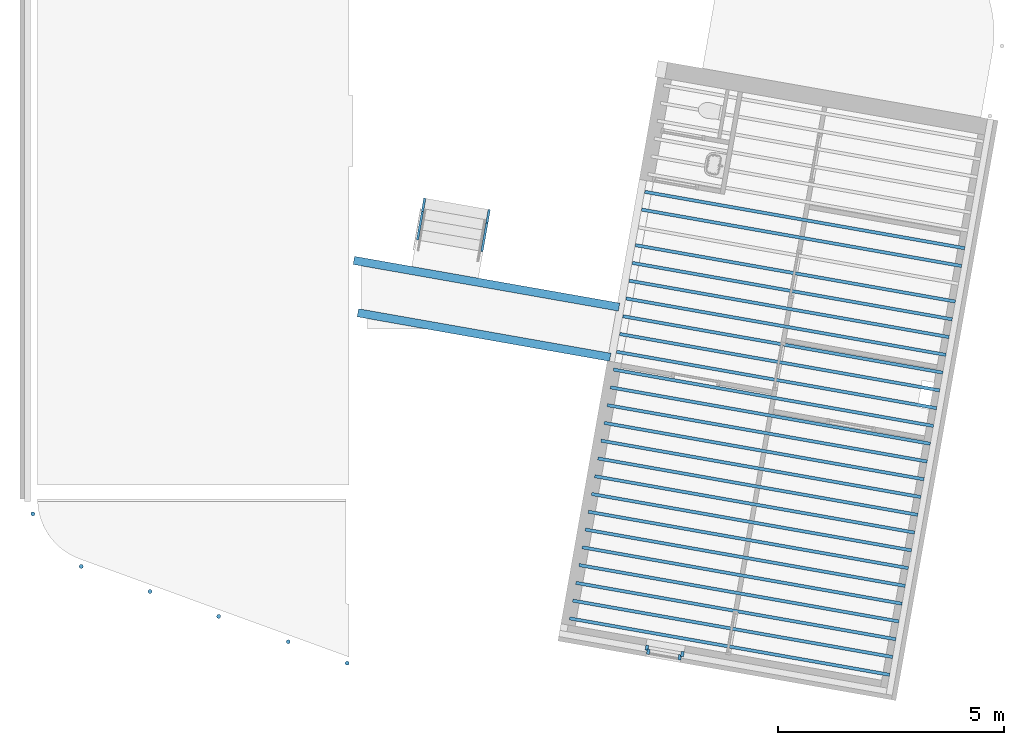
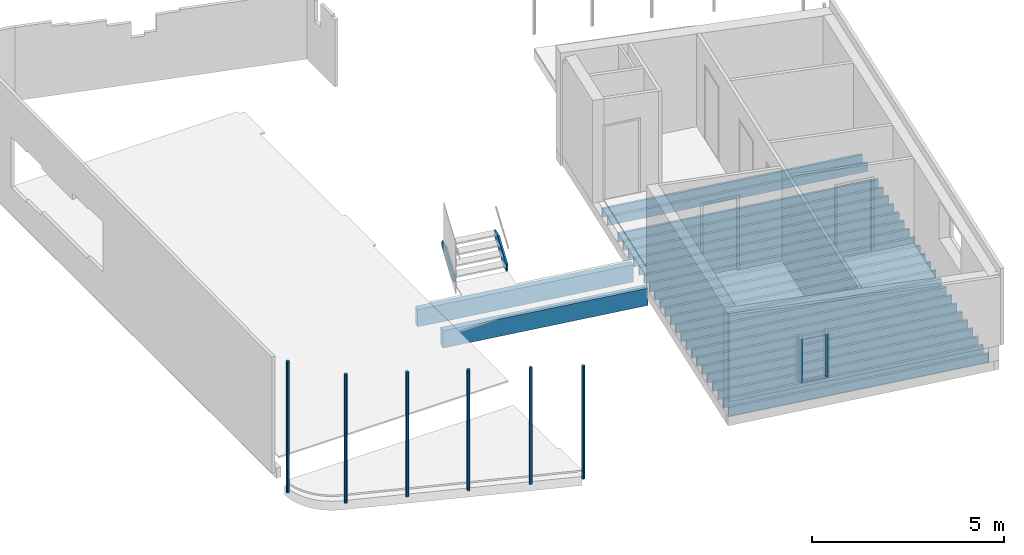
# One storey, part 1 of 7: 26 beams, 12 members, 6 elements without a shape of their own.
"""IFC2X3 building model written with IfcOpenShell, lengths in millimetres."""

from ifc_helpers import new_model, entity, si_unit, converted_unit, derived_unit, direction, frame, frame_2d, origin, origin_2d_with_axis, place, context, subcontext, project, spatial, polyline, rectangle, circle, outline, extrude, source, transform, mapped, material, type_object, type_shapes, element, aggregate, save


model = new_model("IFC2X3")

# Units and contexts
model_context = context("Model", 3, precision=0.01, world=origin(), true_north=direction((6.12303176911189e-17, 1.0)))
body_context = subcontext(model_context, "Body", "Model", "MODEL_VIEW")
ifc_project = project(units=[si_unit("LENGTHUNIT", "METRE", prefix="MILLI"), si_unit("AREAUNIT", "SQUARE_METRE"), si_unit("VOLUMEUNIT", "CUBIC_METRE"), converted_unit("PLANEANGLEUNIT", "DEGREE", entity("IfcRatioMeasure", 0.0174532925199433), si_unit("PLANEANGLEUNIT", "RADIAN"), dimensions=[0, 0, 0, 0, 0, 0, 0]), si_unit("MASSUNIT", "GRAM", prefix="KILO"), derived_unit("MASSDENSITYUNIT", [(si_unit("MASSUNIT", "GRAM", prefix="KILO"), 1), (si_unit("LENGTHUNIT", "METRE"), -3)]), si_unit("TIMEUNIT", "SECOND"), si_unit("FREQUENCYUNIT", "HERTZ"), si_unit("THERMODYNAMICTEMPERATUREUNIT", "DEGREE_CELSIUS"), derived_unit("THERMALTRANSMITTANCEUNIT", [(si_unit("MASSUNIT", "GRAM", prefix="KILO"), 1), (si_unit("THERMODYNAMICTEMPERATUREUNIT", "KELVIN"), -1), (si_unit("TIMEUNIT", "SECOND"), -3)]), derived_unit("VOLUMETRICFLOWRATEUNIT", [(si_unit("LENGTHUNIT", "METRE"), 3), (si_unit("TIMEUNIT", "SECOND"), -1)]), si_unit("ELECTRICCURRENTUNIT", "AMPERE"), si_unit("ELECTRICVOLTAGEUNIT", "VOLT"), si_unit("POWERUNIT", "WATT"), si_unit("FORCEUNIT", "NEWTON", prefix="KILO"), si_unit("ILLUMINANCEUNIT", "LUX"), si_unit("LUMINOUSFLUXUNIT", "LUMEN"), si_unit("LUMINOUSINTENSITYUNIT", "CANDELA"), derived_unit("USERDEFINED", [(si_unit("MASSUNIT", "GRAM", prefix="KILO"), -1), (si_unit("LENGTHUNIT", "METRE"), -2), (si_unit("TIMEUNIT", "SECOND"), 3), (si_unit("LUMINOUSFLUXUNIT", "LUMEN"), 1)]), derived_unit("LINEARVELOCITYUNIT", [(si_unit("LENGTHUNIT", "METRE"), 1), (si_unit("TIMEUNIT", "SECOND"), -1)]), si_unit("PRESSUREUNIT", "PASCAL"), derived_unit("USERDEFINED", [(si_unit("LENGTHUNIT", "METRE"), -2), (si_unit("MASSUNIT", "GRAM", prefix="KILO"), 1), (si_unit("TIMEUNIT", "SECOND"), -2)])], contexts=[model_context])

# Site, building, storey
site_placement = place(None, origin())
site = spatial("IfcSite", under=ifc_project, at=site_placement, Name="<Kadaster Gemeente>;<Kadaster nummer>;<Kadaster sectie>", CompositionType="ELEMENT")
building_placement = place(site_placement, origin())
building = spatial("IfcBuilding", under=site, at=building_placement, Name="JRCZ Middelburg", CompositionType="ELEMENT")
storey_placement = place(building_placement, frame((0.0, 0.0, 3000.0)))
storey = spatial("IfcBuildingStorey", under=building, at=storey_placement, Name="01 eerste verdieping", CompositionType="ELEMENT", Elevation=3000.0)

# Stair, members
stair_placement = place(storey_placement, origin())
stair = element("IfcStair", 1, at=stair_placement, inside=storey, Name="Assembled Stair:Stair", ObjectType="Assembled Stair:RBM_ST_houten trap", ShapeType="NOTDEFINED")
ifc_material_1 = material(Name="traphout")
member_type_1 = type_object("IfcMemberType", Name="Stringer:RBM_trapboom hout_300x50", PredefinedType="STRINGER")
member_1_placement = place(stair_placement, origin())
member_1 = element("IfcMember", 2, at=member_1_placement, type_object=member_type_1, material=ifc_material_1, Name="Assembled Stair:Stair:1659339 Stringer 1", ObjectType="Stringer:RBM_trapboom hout_300x50", context=body_context, shape_type="SweptSolid", body=[
    extrude(outline(polyline([(-453.275914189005, -362.454106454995), (-252.303851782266, -362.454106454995), (486.724085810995, 187.885847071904), (486.724085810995, 337.545893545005), (185.407508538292, 337.545893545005), (-453.275914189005, -138.06942125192), (-453.275914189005, -362.454106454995)])), frame((18625.5249894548, 16032.5265603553, 362.454106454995), z_axis=(0.984837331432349, -0.173480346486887, 0.0), x_axis=(0.173480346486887, 0.984837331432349, 0.0)), (0.0, 0.0, 1.0), 50.0000000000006),
])
member_2_placement = place(stair_placement, origin())
member_2 = element("IfcMember", 3, at=member_2_placement, type_object=member_type_1, material=ifc_material_1, Name="Assembled Stair:Stair:1659339 Stringer 2", ObjectType="Stringer:RBM_trapboom hout_300x50", context=body_context, shape_type="SweptSolid", body=[
    extrude(outline(polyline([(-453.275914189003, -362.454106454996), (-252.303851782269, -362.454106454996), (486.724085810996, 187.885847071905), (486.724085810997, 337.545893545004), (185.407508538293, 337.545893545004), (-453.275914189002, -138.069421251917), (-453.275914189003, -362.454106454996)])), frame((20053.5391200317, 15780.9800579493, 362.454106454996), z_axis=(0.98483733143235, -0.17348034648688, 0.0), x_axis=(0.17348034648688, 0.98483733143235, 0.0)), (0.0, 0.0, 1.0), 50.0000000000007),
])
aggregate(stair, [member_1, member_2])

# Beams
ifc_material_2 = material(Name="Softwood, Lumber")
beam_type_1 = type_object("IfcBeamType", Name="180x550", PredefinedType="BEAM")
beam_1_placement = place(storey_placement, frame((23040.0822500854, 14094.8442283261, -30.0), z_axis=(0.0, 0.0, 1.0), x_axis=(-0.984837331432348, 0.173480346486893, 0.0)))
element("IfcBeam", 4, at=beam_1_placement, inside=storey, type_object=beam_type_1, material=ifc_material_2, Name="M_Dimension Lumber:180x550", ObjectType="M_Dimension Lumber:180x550", context=body_context, shape_type="SweptSolid", body=[
    extrude(rectangle(XDim=550.0, YDim=180.000000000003, at=frame_2d((2.55795384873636e-13, 3.76587649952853e-13), x_axis=(1.0, 0.0))), frame((0.0, 0.0, -295.0), z_axis=(1.0, 0.0, 0.0), x_axis=(0.0, 0.0, -1.0)), (0.0, 0.0, 1.0), 5968.59410943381),
])
beam_2_placement = place(storey_placement, frame((22844.234996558, 12983.2451373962, -30.0), z_axis=(0.0, 0.0, 1.0), x_axis=(-0.984807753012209, 0.173648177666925, 0.0)))
element("IfcBeam", 5, at=beam_2_placement, inside=storey, type_object=beam_type_1, material=ifc_material_2, Name="M_Dimension Lumber:180x550", ObjectType="M_Dimension Lumber:180x550", context=body_context, shape_type="SweptSolid", body=[
    extrude(rectangle(XDim=550.0, YDim=180.000000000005, at=frame_2d((2.55795384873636e-13, 0.0), x_axis=(1.0, 0.0))), frame((0.0, 0.0, -295.0), z_axis=(1.0, 0.0, 0.0), x_axis=(0.0, 0.0, -1.0)), (0.0, 0.0, 1.0), 5680.0),
])

# Curtain wall, members
curtain_wall_type_1 = type_object("IfcCurtainWallType", PredefinedType="NOTDEFINED")
curtain_wall_1_placement = place(storey_placement, frame((0.0, 0.0, -3000.0)))
curtain_wall_1 = element("IfcCurtainWall", 6, at=curtain_wall_1_placement, inside=storey, type_object=curtain_wall_type_1)
ifc_material_3 = material(Name="RBM_i2_binnenkozijn")
member_type_2 = type_object("IfcMemberType", Name="32_CWM_067x114", PredefinedType="MEMBER")
shared_shape_1 = source(origin(), body_context, "Body", "SweptSolid", [
    extrude(rectangle(XDim=67.0000000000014, YDim=114.000000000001, at=frame_2d((-2.03925765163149e-12, -9.16600129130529e-13), x_axis=(1.0, 0.0))), frame((23658.4186214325, 6544.03760339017, 3600.0), z_axis=(0.0, 0.0, 1.0), x_axis=(-0.984807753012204, 0.173648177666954, 0.0)), (0.0, 0.0, 1.0), 1400.0),
])
type_shapes(member_type_2, [shared_shape_1])
member_3_placement = place(storey_placement, frame((0.0, 0.0, -3000.0)))
member_3 = element("IfcMember", 7, at=member_3_placement, type_object=member_type_2, material=ifc_material_3, Name="Rectangular Mullion:32_CWM_067x114", ObjectType="Rectangular Mullion:32_CWM_067x114", context=body_context, shape_type="MappedRepresentation", body=[
    mapped(shared_shape_1, transform((0.0, 0.0, 0.0), scale=1.0)),
])
member_type_3 = type_object("IfcMemberType", Name="32_CWM_067x114", PredefinedType="MEMBER")
shared_shape_2 = source(origin(), body_context, "Body", "SweptSolid", [
    extrude(rectangle(XDim=66.9999999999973, YDim=113.999999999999, at=frame_2d((2.03925765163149e-12, 9.09494701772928e-13), x_axis=(1.0, 0.0))), frame((24442.3255928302, 6405.81365396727, 3600.0), z_axis=(0.0, 0.0, 1.0), x_axis=(-0.984807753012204, 0.173648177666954, 0.0)), (0.0, 0.0, 1.0), 1400.0),
])
type_shapes(member_type_3, [shared_shape_2])
member_4_placement = place(storey_placement, frame((0.0, 0.0, -3000.0)))
member_4 = element("IfcMember", 8, at=member_4_placement, type_object=member_type_3, material=ifc_material_3, Name="Rectangular Mullion:32_CWM_067x114", ObjectType="Rectangular Mullion:32_CWM_067x114", context=body_context, shape_type="MappedRepresentation", body=[
    mapped(shared_shape_2, transform((0.0, 0.0, 0.0), scale=1.0)),
])
aggregate(curtain_wall_1, [member_3, member_4])

curtain_wall_type_2 = type_object("IfcCurtainWallType", Name="Curtain Wall:NLRS_31_CW_Ontwerpkozijn 067x114 2", PredefinedType="NOTDEFINED")
curtain_wall_2_placement = place(storey_placement, frame((0.0, 0.0, -3000.0)))
curtain_wall_2 = element("IfcCurtainWall", 9, at=curtain_wall_2_placement, inside=storey, type_object=curtain_wall_type_2, Name="Curtain Wall:NLRS_31_CW_Ontwerpkozijn 067x114 2", ObjectType="Curtain Wall:NLRS_31_CW_Ontwerpkozijn 067x114 2")
ifc_material_4 = material(Name="RBM_a_kozijn")
member_type_4 = type_object("IfcMemberType", Name="31_CWM_067x114", PredefinedType="MEMBER")
shared_shape_3 = source(origin(), body_context, "Body", "SweptSolid", [
    extrude(rectangle(XDim=114.0, YDim=67.0000000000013, at=frame_2d((-5.36459765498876e-13, -9.2370555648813e-14), x_axis=(1.0, 0.0))), frame((24384.754901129, 6332.69993803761, 3600.0), z_axis=(0.0, 0.0, 1.0), x_axis=(0.173648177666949, 0.984807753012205, 0.0)), (0.0, 0.0, 1.0), 1400.0),
])
type_shapes(member_type_4, [shared_shape_3])
member_5_placement = place(storey_placement, frame((0.0, 0.0, -3000.0)))
member_5 = element("IfcMember", 10, at=member_5_placement, type_object=member_type_4, material=ifc_material_4, Name="Rectangular Mullion:31_CWM_067x114", ObjectType="Rectangular Mullion:31_CWM_067x114", context=body_context, shape_type="MappedRepresentation", body=[
    mapped(shared_shape_3, transform((0.0, 0.0, 0.0), scale=1.0)),
])
member_type_5 = type_object("IfcMemberType", Name="31_CWM_067x114", PredefinedType="MEMBER")
shared_shape_4 = source(origin(), body_context, "Body", "SweptSolid", [
    extrude(rectangle(XDim=113.999999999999, YDim=67.0000000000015, at=frame_2d((5.36459765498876e-13, 9.2370555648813e-14), x_axis=(1.0, 0.0))), frame((23687.5110119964, 6455.64284782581, 3600.0), z_axis=(0.0, 0.0, 1.0), x_axis=(0.173648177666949, 0.984807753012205, 0.0)), (0.0, 0.0, 1.0), 1400.0),
])
type_shapes(member_type_5, [shared_shape_4])
member_6_placement = place(storey_placement, frame((0.0, 0.0, -3000.0)))
member_6 = element("IfcMember", 11, at=member_6_placement, type_object=member_type_5, material=ifc_material_4, Name="Rectangular Mullion:31_CWM_067x114", ObjectType="Rectangular Mullion:31_CWM_067x114", context=body_context, shape_type="MappedRepresentation", body=[
    mapped(shared_shape_4, transform((0.0, 0.0, 0.0), scale=1.0)),
])
aggregate(curtain_wall_2, [member_5, member_6])

curtain_wall_type_3 = type_object("IfcCurtainWallType", PredefinedType="NOTDEFINED")
curtain_wall_3_placement = place(storey_placement, frame((0.0, 0.0, -3000.0)))
curtain_wall_3 = element("IfcCurtainWall", 12, at=curtain_wall_3_placement, inside=storey, type_object=curtain_wall_type_3)
ifc_material_5 = material(Name="Staal")
member_type_6 = type_object("IfcMemberType", Name="kolom rond 90", PredefinedType="MEMBER")
shared_shape_5 = source(origin(), body_context, "Body", "SweptSolid", [
    extrude(circle(Radius=45.0, at=frame_2d((-1.53562394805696e-24, 5.87805570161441e-12), x_axis=(1.0, 0.0))), frame((-45.0, 0.0, -3590.75960980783), z_axis=(0.0, 0.0, 1.0), x_axis=(-1.0, 0.0, 0.0)), (0.0, 0.0, 1.0), 3590.75960980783),
])
type_shapes(member_type_6, [shared_shape_5])
member_7_placement = place(storey_placement, frame((17056.0, 6186.77811169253, 0.0), z_axis=(0.0, 0.0, -1.0), x_axis=(0.93969262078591, -0.342020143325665, 0.0)))
member_7 = element("IfcMember", 13, at=member_7_placement, type_object=member_type_6, material=ifc_material_5, Name="Rectangular Mullion:kolom rond 90", ObjectType="Rectangular Mullion:kolom rond 90", context=body_context, shape_type="MappedRepresentation", body=[
    mapped(shared_shape_5, transform((0.0, 0.0, 0.0), scale=1.0)),
])
member_type_7 = type_object("IfcMemberType", Name="kolom rond 90", PredefinedType="MEMBER")
shared_shape_6 = source(origin(), body_context, "Body", "SweptSolid", [
    extrude(circle(Radius=45.0, at=frame_2d((-4.2299497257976e-15, 6.6674242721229e-12), x_axis=(1.0, 0.0))), frame((0.0, 0.0, -4084.09151259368), z_axis=(0.0, 0.0, 1.0), x_axis=(-1.0, 0.0, 0.0)), (0.0, 0.0, 1.0), 4084.09151259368),
])
type_shapes(member_type_7, [shared_shape_6])
member_8_placement = place(storey_placement, frame((11119.4304625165, 8347.51271698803, 0.0), z_axis=(0.0, 0.0, -1.0), x_axis=(0.93969262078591, -0.342020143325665, 0.0)))
member_8 = element("IfcMember", 14, at=member_8_placement, type_object=member_type_7, material=ifc_material_5, Name="Rectangular Mullion:kolom rond 90", ObjectType="Rectangular Mullion:kolom rond 90", context=body_context, shape_type="MappedRepresentation", body=[
    mapped(shared_shape_6, transform((0.0, 0.0, 0.0), scale=1.0)),
])
member_type_8 = type_object("IfcMemberType", Name="kolom rond 90", PredefinedType="MEMBER")
shared_shape_7 = source(origin(), body_context, "Body", "SweptSolid", [
    extrude(circle(Radius=45.0, at=frame_2d((-4.22994972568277e-15, 6.47181407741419e-12), x_axis=(1.0, 0.0))), frame((0.0, 0.0, -3957.34492882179), z_axis=(0.0, 0.0, 1.0), x_axis=(-1.0, 0.0, 0.0)), (0.0, 0.0, 1.0), 3957.34492882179),
])
type_shapes(member_type_8, [shared_shape_7])
member_9_placement = place(storey_placement, frame((12643.4342909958, 7792.82068651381, 0.0), z_axis=(0.0, 0.0, -1.0), x_axis=(0.93969262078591, -0.342020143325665, 0.0)))
member_9 = element("IfcMember", 15, at=member_9_placement, type_object=member_type_8, material=ifc_material_5, Name="Rectangular Mullion:kolom rond 90", ObjectType="Rectangular Mullion:kolom rond 90", context=body_context, shape_type="MappedRepresentation", body=[
    mapped(shared_shape_7, transform((0.0, 0.0, 0.0), scale=1.0)),
])
member_type_9 = type_object("IfcMemberType", Name="kolom rond 90", PredefinedType="MEMBER")
shared_shape_8 = source(origin(), body_context, "Body", "SweptSolid", [
    extrude(circle(Radius=45.0, at=frame_2d((-1.74218549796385e-24, 6.26198192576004e-12), x_axis=(1.0, 0.0))), frame((0.0, 0.0, -3830.87130803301), z_axis=(0.0, 0.0, 1.0), x_axis=(-1.0, 0.0, 0.0)), (0.0, 0.0, 1.0), 3830.87130803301),
])
type_shapes(member_type_9, [shared_shape_8])
member_10_placement = place(storey_placement, frame((14165.7897516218, 7238.72861287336, 0.0), z_axis=(0.0, 0.0, -1.0), x_axis=(0.93969262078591, -0.342020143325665, 0.0)))
member_10 = element("IfcMember", 16, at=member_10_placement, type_object=member_type_9, material=ifc_material_5, Name="Rectangular Mullion:kolom rond 90", ObjectType="Rectangular Mullion:kolom rond 90", context=body_context, shape_type="MappedRepresentation", body=[
    mapped(shared_shape_8, transform((0.0, 0.0, 0.0), scale=1.0)),
])
member_type_10 = type_object("IfcMemberType", Name="kolom rond 90", PredefinedType="MEMBER")
shared_shape_9 = source(origin(), body_context, "Body", "SweptSolid", [
    extrude(circle(Radius=45.0, at=frame_2d((-4.22994972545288e-15, 6.05791183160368e-12), x_axis=(1.0, 0.0))), frame((0.0, 0.0, -3702.83796406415), z_axis=(0.0, 0.0, 1.0), x_axis=(-1.0, 0.0, 0.0)), (0.0, 0.0, 1.0), 3702.83796406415),
])
type_shapes(member_type_10, [shared_shape_9])
member_11_placement = place(storey_placement, frame((15706.9195075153, 6677.80325458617, 0.0), z_axis=(0.0, 0.0, -1.0), x_axis=(0.93969262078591, -0.342020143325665, 0.0)))
member_11 = element("IfcMember", 17, at=member_11_placement, type_object=member_type_10, material=ifc_material_5, Name="Rectangular Mullion:kolom rond 90", ObjectType="Rectangular Mullion:kolom rond 90", context=body_context, shape_type="MappedRepresentation", body=[
    mapped(shared_shape_9, transform((0.0, 0.0, 0.0), scale=1.0)),
])
aggregate(curtain_wall_3, [member_7, member_8, member_9, member_10, member_11])

# Curtain wall, member
curtain_wall_4_placement = place(storey_placement, frame((0.0, 0.0, -3000.0)))
curtain_wall_4 = element("IfcCurtainWall", 18, at=curtain_wall_4_placement, inside=storey, type_object=curtain_wall_type_3)
member_type_11 = type_object("IfcMemberType", Name="kolom rond 90", PredefinedType="MEMBER")
shared_shape_10 = source(origin(), body_context, "Body", "SweptSolid", [
    extrude(circle(Radius=45.0, at=frame_2d((4.22994972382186e-15, -6.42396064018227e-14), x_axis=(1.0, 0.0))), frame((0.0, 0.0, -4165.72009065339)), (0.0, 0.0, 1.0), 4165.72009065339),
])
type_shapes(member_type_11, [shared_shape_10])
member_12_placement = place(storey_placement, frame((10047.7239754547, 9512.91800740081, 0.0), z_axis=(0.0, 0.0, -1.0), x_axis=(0.224951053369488, -0.974370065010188, 0.0)))
member_12 = element("IfcMember", 19, at=member_12_placement, type_object=member_type_11, material=ifc_material_5, Name="Rectangular Mullion:kolom rond 90", ObjectType="Rectangular Mullion:kolom rond 90", context=body_context, shape_type="MappedRepresentation", body=[
    mapped(shared_shape_10, transform((0.0, 0.0, 0.0), scale=1.0)),
])
aggregate(curtain_wall_4, [member_12])

# Assembly, beams
assembly_placement = place(storey_placement, origin())
assembly = element("IfcElementAssembly", 20, at=assembly_placement, inside=storey, Name="Structural Beam System:houten balkalaag 71 X 271 hoh400", ObjectType="Structural Beam System:houten balkalaag 71 X 271 hoh400", AssemblyPlace="NOTDEFINED", PredefinedType="BEAM_GRID")
beam_type_2 = type_object("IfcBeamType", Name="71 x 271", PredefinedType="BEAM")
beam_3_placement = place(assembly_placement, frame((23610.5525292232, 16649.8799154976, 0.0), z_axis=(0.0, 0.0, 1.0), x_axis=(0.984807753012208, -0.173648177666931, 0.0)))
beam_3 = element("IfcBeam", 21, at=beam_3_placement, type_object=beam_type_2, material=ifc_material_2, Name="M_Dimension Lumber:71 x 271", ObjectType="M_Dimension Lumber:71 x 271", context=body_context, shape_type="SweptSolid", body=[
    extrude(rectangle(XDim=271.0, YDim=71.0000000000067, at=frame_2d((0.0, -1.06581410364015e-12), x_axis=(1.0, 0.0))), frame((0.0, 0.0, -199.500000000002), z_axis=(1.0, 0.0, 0.0), x_axis=(0.0, 0.0, -1.0)), (0.0, 0.0, 1.0), 7199.99999999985),
])
beam_4_placement = place(assembly_placement, frame((23541.0932581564, 16255.9568142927, 0.0), z_axis=(0.0, 0.0, 1.0), x_axis=(0.984807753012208, -0.173648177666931, 0.0)))
beam_4 = element("IfcBeam", 22, at=beam_4_placement, type_object=beam_type_2, material=ifc_material_2, Name="M_Dimension Lumber:71 x 271", ObjectType="M_Dimension Lumber:71 x 271", context=body_context, shape_type="SweptSolid", body=[
    extrude(rectangle(XDim=271.0, YDim=71.0000000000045, at=origin_2d_with_axis()), frame((0.0, 0.0, -199.500000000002), z_axis=(1.0, 0.0, 0.0), x_axis=(0.0, 0.0, -1.0)), (0.0, 0.0, 1.0), 7199.99999999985),
])
beam_5_placement = place(assembly_placement, frame((23402.1747160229, 15468.110611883, 0.0), z_axis=(0.0, 0.0, 1.0), x_axis=(0.984807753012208, -0.173648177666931, 0.0)))
beam_5 = element("IfcBeam", 23, at=beam_5_placement, type_object=beam_type_2, material=ifc_material_2, Name="M_Dimension Lumber:71 x 271", ObjectType="M_Dimension Lumber:71 x 271", context=body_context, shape_type="SweptSolid", body=[
    extrude(rectangle(XDim=271.0, YDim=71.0000000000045, at=frame_2d((0.0, -1.06581410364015e-12), x_axis=(1.0, 0.0))), frame((0.0, 0.0, -199.500000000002), z_axis=(1.0, 0.0, 0.0), x_axis=(0.0, 0.0, -1.0)), (0.0, 0.0, 1.0), 7199.99999999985),
])
beam_6_placement = place(assembly_placement, frame((23332.7154449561, 15074.1875106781, 0.0), z_axis=(0.0, 0.0, 1.0), x_axis=(0.984807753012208, -0.173648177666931, 0.0)))
beam_6 = element("IfcBeam", 24, at=beam_6_placement, type_object=beam_type_2, material=ifc_material_2, Name="M_Dimension Lumber:71 x 271", ObjectType="M_Dimension Lumber:71 x 271", context=body_context, shape_type="SweptSolid", body=[
    extrude(rectangle(XDim=271.0, YDim=71.0000000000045, at=frame_2d((0.0, -2.1351809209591e-12), x_axis=(1.0, 0.0))), frame((0.0, 0.0, -199.500000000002), z_axis=(1.0, 0.0, 0.0), x_axis=(0.0, 0.0, -1.0)), (0.0, 0.0, 1.0), 7199.99999999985),
])
beam_7_placement = place(assembly_placement, frame((23263.2561738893, 14680.2644094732, 0.0), z_axis=(0.0, 0.0, 1.0), x_axis=(0.984807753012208, -0.173648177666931, 0.0)))
beam_7 = element("IfcBeam", 25, at=beam_7_placement, type_object=beam_type_2, material=ifc_material_2, Name="M_Dimension Lumber:71 x 271", ObjectType="M_Dimension Lumber:71 x 271", context=body_context, shape_type="SweptSolid", body=[
    extrude(rectangle(XDim=271.0, YDim=71.0000000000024, at=frame_2d((0.0, 2.1316282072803e-12), x_axis=(1.0, 0.0))), frame((0.0, 0.0, -199.500000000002), z_axis=(1.0, 0.0, 0.0), x_axis=(0.0, 0.0, -1.0)), (0.0, 0.0, 1.0), 7199.99999999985),
])
beam_8_placement = place(assembly_placement, frame((23193.7969028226, 14286.3413082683, 0.0), z_axis=(0.0, 0.0, 1.0), x_axis=(0.984807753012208, -0.173648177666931, 0.0)))
beam_8 = element("IfcBeam", 26, at=beam_8_placement, type_object=beam_type_2, material=ifc_material_2, Name="M_Dimension Lumber:71 x 271", ObjectType="M_Dimension Lumber:71 x 271", context=body_context, shape_type="SweptSolid", body=[
    extrude(rectangle(XDim=271.0, YDim=71.0000000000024, at=origin_2d_with_axis()), frame((0.0, 0.0, -199.500000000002), z_axis=(1.0, 0.0, 0.0), x_axis=(0.0, 0.0, -1.0)), (0.0, 0.0, 1.0), 7199.99999999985),
])
beam_9_placement = place(assembly_placement, frame((23124.3376317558, 13892.4182070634, 0.0), z_axis=(0.0, 0.0, 1.0), x_axis=(0.984807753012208, -0.173648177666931, 0.0)))
beam_9 = element("IfcBeam", 27, at=beam_9_placement, type_object=beam_type_2, material=ifc_material_2, Name="M_Dimension Lumber:71 x 271", ObjectType="M_Dimension Lumber:71 x 271", context=body_context, shape_type="SweptSolid", body=[
    extrude(rectangle(XDim=271.0, YDim=71.0000000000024, at=frame_2d((0.0, 1.06581410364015e-12), x_axis=(1.0, 0.0))), frame((0.0, 0.0, -199.500000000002), z_axis=(1.0, 0.0, 0.0), x_axis=(0.0, 0.0, -1.0)), (0.0, 0.0, 1.0), 7199.99999999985),
])
beam_10_placement = place(assembly_placement, frame((23054.878360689, 13498.4951058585, 0.0), z_axis=(0.0, 0.0, 1.0), x_axis=(0.984807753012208, -0.173648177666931, 0.0)))
beam_10 = element("IfcBeam", 28, at=beam_10_placement, type_object=beam_type_2, material=ifc_material_2, Name="M_Dimension Lumber:71 x 271", ObjectType="M_Dimension Lumber:71 x 271", context=body_context, shape_type="SweptSolid", body=[
    extrude(rectangle(XDim=271.0, YDim=71.0000000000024, at=frame_2d((0.0, -2.1351809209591e-12), x_axis=(1.0, 0.0))), frame((0.0, 0.0, -199.500000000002), z_axis=(1.0, 0.0, 0.0), x_axis=(0.0, 0.0, -1.0)), (0.0, 0.0, 1.0), 7199.99999999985),
])
beam_11_placement = place(assembly_placement, frame((22985.4190896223, 13104.5720046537, 0.0), z_axis=(0.0, 0.0, 1.0), x_axis=(0.984807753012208, -0.173648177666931, 0.0)))
beam_11 = element("IfcBeam", 29, at=beam_11_placement, type_object=beam_type_2, material=ifc_material_2, Name="M_Dimension Lumber:71 x 271", ObjectType="M_Dimension Lumber:71 x 271", context=body_context, shape_type="SweptSolid", body=[
    extrude(rectangle(XDim=271.0, YDim=71.0000000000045, at=frame_2d((0.0, 1.06581410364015e-12), x_axis=(1.0, 0.0))), frame((0.0, 0.0, -199.500000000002), z_axis=(1.0, 0.0, 0.0), x_axis=(0.0, 0.0, -1.0)), (0.0, 0.0, 1.0), 7199.99999999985),
])
beam_12_placement = place(assembly_placement, frame((22915.9598185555, 12710.6489034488, 0.0), z_axis=(0.0, 0.0, 1.0), x_axis=(0.984807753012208, -0.173648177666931, 0.0)))
beam_12 = element("IfcBeam", 30, at=beam_12_placement, type_object=beam_type_2, material=ifc_material_2, Name="M_Dimension Lumber:71 x 271", ObjectType="M_Dimension Lumber:71 x 271", context=body_context, shape_type="SweptSolid", body=[
    extrude(rectangle(XDim=271.0, YDim=71.0000000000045, at=frame_2d((0.0, 1.06581410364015e-12), x_axis=(1.0, 0.0))), frame((0.0, 0.0, -199.500000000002), z_axis=(1.0, 0.0, 0.0), x_axis=(0.0, 0.0, -1.0)), (0.0, 0.0, 1.0), 7199.99999999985),
])
beam_13_placement = place(assembly_placement, frame((22846.5005474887, 12316.7258022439, 0.0), z_axis=(0.0, 0.0, 1.0), x_axis=(0.984807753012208, -0.173648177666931, 0.0)))
beam_13 = element("IfcBeam", 31, at=beam_13_placement, type_object=beam_type_2, material=ifc_material_2, Name="M_Dimension Lumber:71 x 271", ObjectType="M_Dimension Lumber:71 x 271", context=body_context, shape_type="SweptSolid", body=[
    extrude(rectangle(XDim=271.0, YDim=71.0000000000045, at=origin_2d_with_axis()), frame((0.0, 0.0, -199.500000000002), z_axis=(1.0, 0.0, 0.0), x_axis=(0.0, 0.0, -1.0)), (0.0, 0.0, 1.0), 7199.99999999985),
])
beam_14_placement = place(assembly_placement, frame((22777.041276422, 11922.802701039, 0.0), z_axis=(0.0, 0.0, 1.0), x_axis=(0.984807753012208, -0.173648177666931, 0.0)))
beam_14 = element("IfcBeam", 32, at=beam_14_placement, type_object=beam_type_2, material=ifc_material_2, Name="M_Dimension Lumber:71 x 271", ObjectType="M_Dimension Lumber:71 x 271", context=body_context, shape_type="SweptSolid", body=[
    extrude(rectangle(XDim=271.0, YDim=71.0000000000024, at=origin_2d_with_axis()), frame((0.0, 0.0, -199.500000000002), z_axis=(1.0, 0.0, 0.0), x_axis=(0.0, 0.0, -1.0)), (0.0, 0.0, 1.0), 7199.99999999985),
])
beam_15_placement = place(assembly_placement, frame((22707.5820053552, 11528.8795998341, 0.0), z_axis=(0.0, 0.0, 1.0), x_axis=(0.984807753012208, -0.173648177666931, 0.0)))
beam_15 = element("IfcBeam", 33, at=beam_15_placement, type_object=beam_type_2, material=ifc_material_2, Name="M_Dimension Lumber:71 x 271", ObjectType="M_Dimension Lumber:71 x 271", context=body_context, shape_type="SweptSolid", body=[
    extrude(rectangle(XDim=271.0, YDim=71.0000000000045, at=frame_2d((0.0, 1.06581410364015e-12), x_axis=(1.0, 0.0))), frame((0.0, 0.0, -199.500000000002), z_axis=(1.0, 0.0, 0.0), x_axis=(0.0, 0.0, -1.0)), (0.0, 0.0, 1.0), 7199.99999999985),
])
beam_16_placement = place(assembly_placement, frame((22638.1227342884, 11134.9564986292, 0.0), z_axis=(0.0, 0.0, 1.0), x_axis=(0.984807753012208, -0.173648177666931, 0.0)))
beam_16 = element("IfcBeam", 34, at=beam_16_placement, type_object=beam_type_2, material=ifc_material_2, Name="M_Dimension Lumber:71 x 271", ObjectType="M_Dimension Lumber:71 x 271", context=body_context, shape_type="SweptSolid", body=[
    extrude(rectangle(XDim=271.0, YDim=71.0000000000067, at=origin_2d_with_axis()), frame((0.0, 0.0, -199.500000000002), z_axis=(1.0, 0.0, 0.0), x_axis=(0.0, 0.0, -1.0)), (0.0, 0.0, 1.0), 7199.99999999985),
])
beam_17_placement = place(assembly_placement, frame((22568.6634632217, 10741.0333974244, 0.0), z_axis=(0.0, 0.0, 1.0), x_axis=(0.984807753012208, -0.173648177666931, 0.0)))
beam_17 = element("IfcBeam", 35, at=beam_17_placement, type_object=beam_type_2, material=ifc_material_2, Name="M_Dimension Lumber:71 x 271", ObjectType="M_Dimension Lumber:71 x 271", context=body_context, shape_type="SweptSolid", body=[
    extrude(rectangle(XDim=271.0, YDim=71.0000000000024, at=frame_2d((0.0, 1.06581410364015e-12), x_axis=(1.0, 0.0))), frame((0.0, 0.0, -199.500000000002), z_axis=(1.0, 0.0, 0.0), x_axis=(0.0, 0.0, -1.0)), (0.0, 0.0, 1.0), 7199.99999999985),
])
beam_18_placement = place(assembly_placement, frame((22499.2041921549, 10347.1102962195, 0.0), z_axis=(0.0, 0.0, 1.0), x_axis=(0.984807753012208, -0.173648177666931, 0.0)))
beam_18 = element("IfcBeam", 36, at=beam_18_placement, type_object=beam_type_2, material=ifc_material_2, Name="M_Dimension Lumber:71 x 271", ObjectType="M_Dimension Lumber:71 x 271", context=body_context, shape_type="SweptSolid", body=[
    extrude(rectangle(XDim=271.0, YDim=71.0000000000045, at=frame_2d((0.0, 1.06581410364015e-12), x_axis=(1.0, 0.0))), frame((0.0, 0.0, -199.500000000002), z_axis=(1.0, 0.0, 0.0), x_axis=(0.0, 0.0, -1.0)), (0.0, 0.0, 1.0), 7199.99999999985),
])
beam_19_placement = place(assembly_placement, frame((22429.7449210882, 9953.18719501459, 0.0), z_axis=(0.0, 0.0, 1.0), x_axis=(0.984807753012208, -0.173648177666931, 0.0)))
beam_19 = element("IfcBeam", 37, at=beam_19_placement, type_object=beam_type_2, material=ifc_material_2, Name="M_Dimension Lumber:71 x 271", ObjectType="M_Dimension Lumber:71 x 271", context=body_context, shape_type="SweptSolid", body=[
    extrude(rectangle(XDim=271.0, YDim=71.0000000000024, at=origin_2d_with_axis()), frame((0.0, 0.0, -199.500000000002), z_axis=(1.0, 0.0, 0.0), x_axis=(0.0, 0.0, -1.0)), (0.0, 0.0, 1.0), 7199.99999999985),
])
beam_20_placement = place(assembly_placement, frame((22360.2856500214, 9559.2640938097, 0.0), z_axis=(0.0, 0.0, 1.0), x_axis=(0.984807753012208, -0.173648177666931, 0.0)))
beam_20 = element("IfcBeam", 38, at=beam_20_placement, type_object=beam_type_2, material=ifc_material_2, Name="M_Dimension Lumber:71 x 271", ObjectType="M_Dimension Lumber:71 x 271", context=body_context, shape_type="SweptSolid", body=[
    extrude(rectangle(XDim=271.0, YDim=71.0000000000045, at=frame_2d((0.0, 1.06581410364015e-12), x_axis=(1.0, 0.0))), frame((0.0, 0.0, -199.500000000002), z_axis=(1.0, 0.0, 0.0), x_axis=(0.0, 0.0, -1.0)), (0.0, 0.0, 1.0), 7199.99999999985),
])
beam_21_placement = place(assembly_placement, frame((22290.8263789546, 9165.34099260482, 0.0), z_axis=(0.0, 0.0, 1.0), x_axis=(0.984807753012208, -0.173648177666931, 0.0)))
beam_21 = element("IfcBeam", 39, at=beam_21_placement, type_object=beam_type_2, material=ifc_material_2, Name="M_Dimension Lumber:71 x 271", ObjectType="M_Dimension Lumber:71 x 271", context=body_context, shape_type="SweptSolid", body=[
    extrude(rectangle(XDim=271.0, YDim=71.0000000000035, at=frame_2d((0.0, -1.06581410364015e-12), x_axis=(1.0, 0.0))), frame((0.0, 0.0, -199.500000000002), z_axis=(1.0, 0.0, 0.0), x_axis=(0.0, 0.0, -1.0)), (0.0, 0.0, 1.0), 7199.99999999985),
])
beam_22_placement = place(assembly_placement, frame((22221.3671078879, 8771.41789139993, 0.0), z_axis=(0.0, 0.0, 1.0), x_axis=(0.984807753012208, -0.173648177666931, 0.0)))
beam_22 = element("IfcBeam", 40, at=beam_22_placement, type_object=beam_type_2, material=ifc_material_2, Name="M_Dimension Lumber:71 x 271", ObjectType="M_Dimension Lumber:71 x 271", context=body_context, shape_type="SweptSolid", body=[
    extrude(rectangle(XDim=271.0, YDim=71.0000000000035, at=frame_2d((0.0, 5.32907051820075e-13), x_axis=(1.0, 0.0))), frame((0.0, 0.0, -199.500000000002), z_axis=(1.0, 0.0, 0.0), x_axis=(0.0, 0.0, -1.0)), (0.0, 0.0, 1.0), 7199.99999999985),
])
beam_23_placement = place(assembly_placement, frame((22151.9078368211, 8377.49479019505, 0.0), z_axis=(0.0, 0.0, 1.0), x_axis=(0.984807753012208, -0.173648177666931, 0.0)))
beam_23 = element("IfcBeam", 41, at=beam_23_placement, type_object=beam_type_2, material=ifc_material_2, Name="M_Dimension Lumber:71 x 271", ObjectType="M_Dimension Lumber:71 x 271", context=body_context, shape_type="SweptSolid", body=[
    extrude(rectangle(XDim=271.0, YDim=71.0000000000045, at=frame_2d((0.0, -5.32907051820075e-13), x_axis=(1.0, 0.0))), frame((0.0, 0.0, -199.500000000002), z_axis=(1.0, 0.0, 0.0), x_axis=(0.0, 0.0, -1.0)), (0.0, 0.0, 1.0), 7199.99999999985),
])
beam_24_placement = place(assembly_placement, frame((22082.4485657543, 7983.57168899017, 0.0), z_axis=(0.0, 0.0, 1.0), x_axis=(0.984807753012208, -0.173648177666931, 0.0)))
beam_24 = element("IfcBeam", 42, at=beam_24_placement, type_object=beam_type_2, material=ifc_material_2, Name="M_Dimension Lumber:71 x 271", ObjectType="M_Dimension Lumber:71 x 271", context=body_context, shape_type="SweptSolid", body=[
    extrude(rectangle(XDim=271.0, YDim=71.0000000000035, at=frame_2d((0.0, -1.06581410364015e-12), x_axis=(1.0, 0.0))), frame((0.0, 0.0, -199.500000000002), z_axis=(1.0, 0.0, 0.0), x_axis=(0.0, 0.0, -1.0)), (0.0, 0.0, 1.0), 7199.99999999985),
])
beam_25_placement = place(assembly_placement, frame((22012.9892946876, 7589.64858778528, 0.0), z_axis=(0.0, 0.0, 1.0), x_axis=(0.984807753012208, -0.173648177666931, 0.0)))
beam_25 = element("IfcBeam", 43, at=beam_25_placement, type_object=beam_type_2, material=ifc_material_2, Name="M_Dimension Lumber:71 x 271", ObjectType="M_Dimension Lumber:71 x 271", context=body_context, shape_type="SweptSolid", body=[
    extrude(rectangle(XDim=271.0, YDim=71.0000000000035, at=frame_2d((0.0, 1.06581410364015e-12), x_axis=(1.0, 0.0))), frame((0.0, 0.0, -199.500000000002), z_axis=(1.0, 0.0, 0.0), x_axis=(0.0, 0.0, -1.0)), (0.0, 0.0, 1.0), 7199.99999999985),
])
beam_26_placement = place(assembly_placement, frame((21943.5300236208, 7195.7254865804, 0.0), z_axis=(0.0, 0.0, 1.0), x_axis=(0.984807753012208, -0.173648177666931, 0.0)))
beam_26 = element("IfcBeam", 44, at=beam_26_placement, type_object=beam_type_2, material=ifc_material_2, Name="M_Dimension Lumber:71 x 271", ObjectType="M_Dimension Lumber:71 x 271", context=body_context, shape_type="SweptSolid", body=[
    extrude(rectangle(XDim=271.0, YDim=71.0000000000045, at=origin_2d_with_axis()), frame((0.0, 0.0, -199.500000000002), z_axis=(1.0, 0.0, 0.0), x_axis=(0.0, 0.0, -1.0)), (0.0, 0.0, 1.0), 7199.99999999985),
])
aggregate(assembly, [beam_3, beam_4, beam_5, beam_6, beam_7, beam_8, beam_9, beam_10, beam_11, beam_12, beam_13, beam_14, beam_15, beam_16, beam_17, beam_18, beam_19, beam_20, beam_21, beam_22, beam_23, beam_24, beam_25, beam_26])

save(model, "model.ifc")
